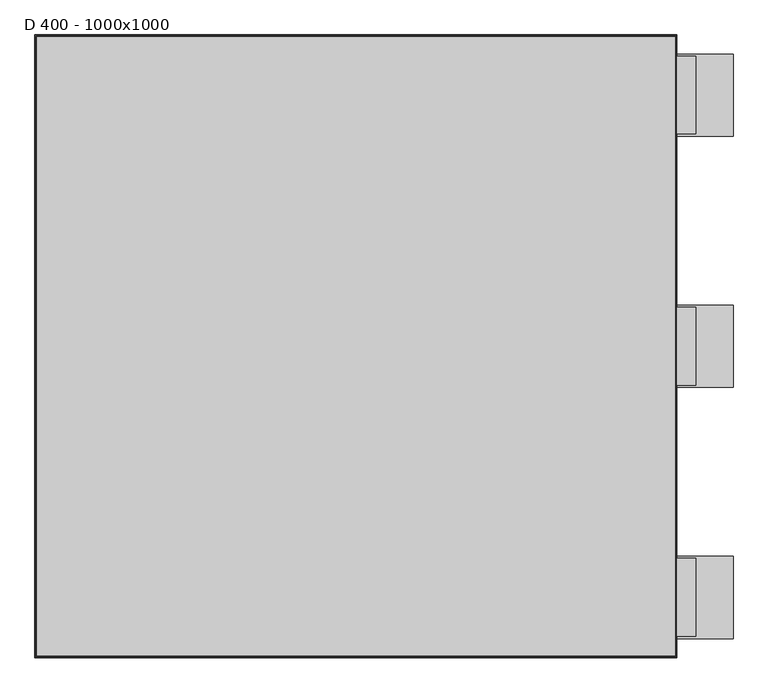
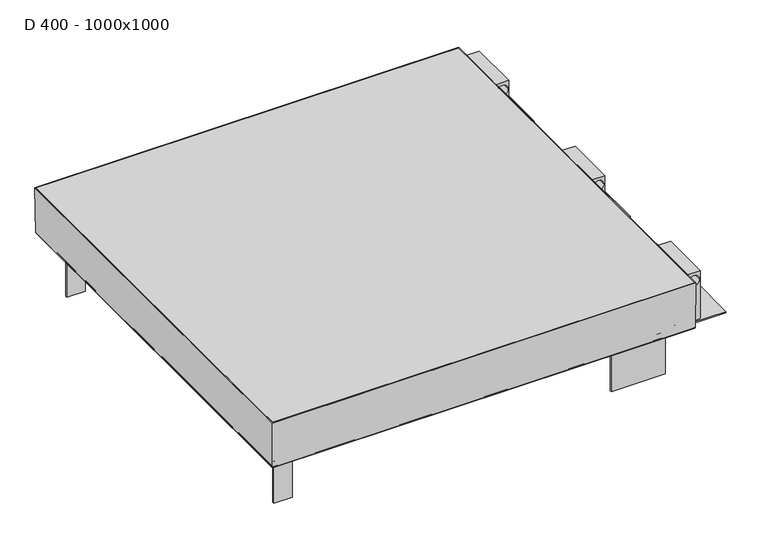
"""IFC4 building model written with IfcOpenShell, lengths in millimetres: proxy geometry, ME_ST_WPB_Access Cover PAVING ASSIST GS 120_ACO : D 400 - 1000x1000."""

from ifc_helpers import new_model, si_unit, point, frame, frame_2d, origin, place, context, project, spatial, polyline, circle_curve, ellipse_curve, trimmed, segment, composite_curve, outline, extrude, source, transform, mapped, element, save
from ifc_brep_helpers import plane_surface, cylinder_surface, revolved_surface, advanced_brep


def d_400_1000x1000_37fa2a3f(model_context):
    return source(origin(), model_context, "Body", "SolidModel", [
        extrude(outline(polyline([(540.0, 75.0), (690.0, 75.0), (690.0, -75.2111329), (540.0, -75.2111329), (540.0, 75.0)])), frame((0.0, 0.0, -144.0), z_axis=(0.0, 0.0, 1.0), x_axis=(1.0, 0.0, 0.0)), (0.0, 0.0, 1.0), 3.0),
        extrude(outline(polyline([(0.0, 622.0), (0.0, 587.0), (-141.0, 587.0), (-141.0, 622.0), (0.0, 622.0)]), holes=[composite_curve([segment(trimmed(circle_curve(frame_2d((-23.8203371, 604.4245301)), 15.0), [point((-23.8203371, 589.4245301))], [point((-23.8203371, 619.4245301))], True, "CARTESIAN"), True, "CONTINUOUS"), segment(trimmed(circle_curve(frame_2d((-23.8203371, 604.4245301)), 15.0), [point((-23.8203371, 619.4245301))], [point((-23.8203371, 589.4245301))], True, "CARTESIAN"), True, "CONTINUOUS")], self_intersect=False)]), frame((0.0, -70.8630535, 0.0), z_axis=(0.0, 1.0, 0.0), x_axis=(0.0, 0.0, 1.0)), (0.0, 0.0, 1.0), 142.0),
        extrude(outline(polyline([(540.0, -384.2888671), (690.0, -384.2888671), (690.0, -534.5), (540.0, -534.5), (540.0, -384.2888671)])), frame((0.0, 0.0, -144.0), z_axis=(0.0, 0.0, 1.0), x_axis=(1.0, 0.0, 0.0)), (0.0, 0.0, 1.0), 3.0),
        extrude(outline(polyline([(0.0, 622.0), (0.0, 587.0), (-141.0, 587.0), (-141.0, 622.0), (0.0, 622.0)]), holes=[composite_curve([segment(trimmed(circle_curve(frame_2d((-23.8203371, 604.4245301)), 15.0), [point((-23.8203371, 589.4245301))], [point((-23.8203371, 619.4245301))], True, "CARTESIAN"), True, "CONTINUOUS"), segment(trimmed(circle_curve(frame_2d((-23.8203371, 604.4245301)), 15.0), [point((-23.8203371, 619.4245301))], [point((-23.8203371, 589.4245301))], True, "CARTESIAN"), True, "CONTINUOUS")], self_intersect=False)]), frame((0.0, -530.1519206, 0.0), z_axis=(0.0, 1.0, 0.0), x_axis=(0.0, 0.0, 1.0)), (0.0, 0.0, 1.0), 142.0),
        extrude(outline(polyline([(540.0, 534.5), (690.0, 534.5), (690.0, 384.2888671), (540.0, 384.2888671), (540.0, 534.5)])), frame((0.0, 0.0, -144.0), z_axis=(0.0, 0.0, 1.0), x_axis=(1.0, 0.0, 0.0)), (0.0, 0.0, 1.0), 3.0),
        extrude(outline(polyline([(0.0, 622.0), (0.0, 587.0), (-141.0, 587.0), (-141.0, 622.0), (0.0, 622.0)]), holes=[composite_curve([segment(trimmed(circle_curve(frame_2d((-23.8203371, 604.4245301)), 15.0), [point((-23.8203371, 589.4245301))], [point((-23.8203371, 619.4245301))], True, "CARTESIAN"), True, "CONTINUOUS"), segment(trimmed(circle_curve(frame_2d((-23.8203371, 604.4245301)), 15.0), [point((-23.8203371, 619.4245301))], [point((-23.8203371, 589.4245301))], True, "CARTESIAN"), True, "CONTINUOUS")], self_intersect=False)]), frame((0.0, 388.6369465, 0.0), z_axis=(0.0, 1.0, 0.0), x_axis=(0.0, 0.0, 1.0)), (0.0, 0.0, 1.0), 142.0),
        extrude(outline(polyline([(-584.3953955, -511.8953955), (-584.3953955, 511.8953955), (-584.3953955, 566.8953955), (-529.3953955, 566.8953955), (529.3953955, 566.8953955), (584.3953955, 566.8953955), (584.3953955, 511.8953955), (584.3953955, -511.8953955), (584.3953955, -566.8953955), (529.3953955, -566.8953955), (-529.3953955, -566.8953955), (-584.3953955, -566.8953955), (-584.3953955, -511.8953955)])), frame((0.0, 0.0, -5.0), z_axis=(0.0, 0.0, 1.0), x_axis=(1.0, 0.0, 0.0)), (0.0, 0.0, 1.0), 5.0),
        advanced_brep(
        [(-517.5, 500.0, -116.8748363), (-517.5, -500.0, -116.8748363), (517.5, -500.0, -116.8748363), (517.5, 500.0, -116.8748363), (580.9605243, 563.4605243, -120.0), (580.9605243, -563.4605243, -120.0), (-580.9605243, -563.4605243, -120.0), (-580.9605243, 563.4605243, -120.0), (-517.5, 500.0, -117.9987834), (-517.5, -500.0, -117.9987834), (517.5, -500.0, -117.9987834), (517.5, 500.0, -117.9987834), (582.2486912, 564.7486912, -118.7973005), (582.2486912, -564.7486912, -118.7973005), (580.3145448, 562.8145448, -116.8748363), (579.1900014, 561.6900014, -117.9987834), (579.1900014, -561.6900014, -117.9987834), (580.3145448, -562.8145448, -116.8748363), (584.3953955, -566.8953955, 0.0), (584.3953955, 566.8953955, 0.0), (586.3966675, 568.8966675, 0.0), (586.3966675, -568.8966675, 0.0), (-582.2486912, -564.7486912, -118.7973005), (-579.1900014, -561.6900014, -117.9987834), (-580.3145448, -562.8145448, -116.8748363), (-584.3953955, -566.8953955, 0.0), (-586.3966675, -568.8966675, 0.0), (-582.2486912, 564.7486912, -118.7973005), (-579.1900014, 561.6900014, -117.9987834), (-580.3145448, 562.8145448, -116.8748363), (-584.3953955, 566.8953955, 0.0), (-586.3966675, 568.8966675, 0.0)],
        [
            (0, 1),
            (1, 2),
            (2, 3),
            (3, 0),
            (4, 5),
            (5, 6),
            (6, 7),
            (7, 4),
            (0, 8),
            (8, 9),
            (9, 1),
            (9, 10),
            (10, 2),
            (10, 11),
            (11, 3),
            (11, 8),
            (4, 12, ellipse_curve(frame((580.9605243, 563.4605243, -118.7087963), z_axis=(0.7071067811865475, -0.7071067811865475, 0.0), x_axis=(0.7071067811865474, 0.7071067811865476, 0.0)), 1.8260378, 1.2912037)),
            (12, 13),
            (13, 5, ellipse_curve(frame((580.9605243, -563.4605243, -118.7087963), z_axis=(0.7071067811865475, 0.7071067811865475, 0.0), x_axis=(-0.7071067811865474, 0.7071067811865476, 0.0)), 1.8260378, 1.2912037)),
            (14, 15, ellipse_curve(frame((579.0254138, 561.5254138, -116.7095649), z_axis=(-0.7071067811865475, 0.7071067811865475, 0.0), x_axis=(-0.7071067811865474, -0.7071067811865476, 0.0)), 1.838028, 1.2996821)),
            (15, 16),
            (16, 17, ellipse_curve(frame((579.0254138, -561.5254138, -116.7095649), z_axis=(-0.7071067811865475, -0.7071067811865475, 0.0), x_axis=(0.7071067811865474, -0.7071067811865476, 0.0)), 1.838028, 1.2996821)),
            (17, 14),
            (17, 18),
            (18, 19),
            (19, 14),
            (12, 20),
            (20, 21),
            (21, 13),
            (13, 22),
            (22, 6, ellipse_curve(frame((-580.9605243, -563.4605243, -118.7087963), z_axis=(0.7071067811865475, -0.7071067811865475, 0.0), x_axis=(0.7071067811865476, 0.7071067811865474, 0.0)), 1.8260378, 1.2912037)),
            (16, 23),
            (23, 24, ellipse_curve(frame((-579.0254138, -561.5254138, -116.7095649), z_axis=(-0.7071067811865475, 0.7071067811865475, 0.0), x_axis=(-0.7071067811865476, -0.7071067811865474, 0.0)), 1.838028, 1.2996821)),
            (24, 17),
            (24, 25),
            (25, 18),
            (21, 26),
            (26, 22),
            (22, 27),
            (27, 7, ellipse_curve(frame((-580.9605243, 563.4605243, -118.7087963), z_axis=(-0.7071067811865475, -0.7071067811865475, 0.0), x_axis=(0.7071067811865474, -0.7071067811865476, 0.0)), 1.8260378, 1.2912037)),
            (23, 28),
            (28, 29, ellipse_curve(frame((-579.0254138, 561.5254138, -116.7095649), z_axis=(0.7071067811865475, 0.7071067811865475, 0.0), x_axis=(-0.7071067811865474, 0.7071067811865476, 0.0)), 1.838028, 1.2996821)),
            (29, 24),
            (29, 30),
            (30, 25),
            (26, 31),
            (31, 27),
            (27, 12),
            (15, 28),
            (14, 29),
            (19, 30),
            (20, 31),
        ],
        [
            plane_surface(frame((-517.5, -500.0, -116.8748363), z_axis=(0.0, 0.0, 1.0), x_axis=(0.0, -1.0, 0.0))),
            plane_surface(frame((-517.5, -500.0, -120.0), z_axis=(0.0, 0.0, -1.0), x_axis=(0.0, 1.0, 0.0))),
            plane_surface(frame((-517.5, 500.0, -116.8748363), z_axis=(-1.0, 0.0, 0.0), x_axis=(0.0, 0.0, -1.0))),
            plane_surface(frame((-517.5, -500.0, -116.8748363), z_axis=(0.0, -1.0, 0.0), x_axis=(0.0, 0.0, -1.0))),
            plane_surface(frame((517.5, -500.0, -116.8748363), z_axis=(1.0, 0.0, 0.0), x_axis=(0.0, 0.0, -1.0))),
            plane_surface(frame((517.5, 500.0, -116.8748363), z_axis=(0.0, 1.0, 0.0), x_axis=(0.0, 0.0, -1.0))),
            cylinder_surface(frame((580.9605243, 567.5, -118.7087963), z_axis=(0.0, 1.0, 0.0), x_axis=(1.0, 0.0, 0.0)), 1.2912037),
            revolved_surface(polyline([(580.3250959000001, -562.8250958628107, -116.7095649), (580.3250959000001, 562.8250958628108, -116.7095649)]), (579.0254138, 567.5, -116.7095649), (0.0, -1.0, 0.0)),
            plane_surface(frame((580.3145448, 562.8145448, -116.8748363), z_axis=(-0.9993909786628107, 0.0, 0.03489515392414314), x_axis=(0.0, -1.0, 0.0))),
            plane_surface(frame((586.3966675, 568.8966675, 0.0), z_axis=(0.9993909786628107, 0.0, -0.0348951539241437), x_axis=(0.0, -1.0, 0.0))),
            cylinder_surface(frame((585.0, -563.4605243, -118.7087963), z_axis=(1.0, 0.0, 0.0), x_axis=(0.0, -1.0, 0.0)), 1.2912037),
            revolved_surface(polyline([(-580.3250958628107, -562.8250959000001, -116.7095649), (580.3250958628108, -562.8250959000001, -116.7095649)]), (585.0, -561.5254138, -116.7095649), (-1.0, 0.0, 0.0)),
            plane_surface(frame((580.3145448, -562.8145448, -116.8748363), z_axis=(0.0, 0.9993909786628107, 0.03489515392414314), x_axis=(-1.0, 0.0, 0.0))),
            plane_surface(frame((586.3966675, -568.8966675, 0.0), z_axis=(0.0, -0.9993909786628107, -0.0348951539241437), x_axis=(-1.0, 0.0, 0.0))),
            cylinder_surface(frame((-580.9605243, -567.5, -118.7087963), z_axis=(0.0, -1.0, 0.0), x_axis=(-1.0, 0.0, 0.0)), 1.2912037),
            revolved_surface(polyline([(-580.3250959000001, 562.8250958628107, -116.7095649), (-580.3250959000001, -562.8250958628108, -116.7095649)]), (-579.0254138, -567.5, -116.7095649), (0.0, 1.0, 0.0)),
            plane_surface(frame((-580.3145448, -562.8145448, -116.8748363), z_axis=(0.9993909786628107, 0.0, 0.03489515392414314), x_axis=(0.0, 1.0, 0.0))),
            plane_surface(frame((-586.3966675, -568.8966675, 0.0), z_axis=(-0.9993909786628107, 0.0, -0.0348951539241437), x_axis=(0.0, 1.0, 0.0))),
            cylinder_surface(frame((-585.0, 563.4605243, -118.7087963), z_axis=(-1.0, 0.0, 0.0), x_axis=(0.0, 1.0, 0.0)), 1.2912037),
            plane_surface(frame((-549.6109139, 532.1109139, -117.9987834), z_axis=(0.0, 0.0, 1.0), x_axis=(1.0, 0.0, 0.0))),
            revolved_surface(polyline([(580.3250958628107, 562.8250959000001, -116.7095649), (-580.3250958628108, 562.8250959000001, -116.7095649)]), (-585.0, 561.5254138, -116.7095649), (1.0, 0.0, 0.0)),
            plane_surface(frame((-580.3145448, 562.8145448, -116.8748363), z_axis=(0.0, -0.9993909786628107, 0.03489515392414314), x_axis=(1.0, 0.0, 0.0))),
            plane_surface(frame((-584.3953955, 566.8953955, 0.0), z_axis=(0.0, 0.0, 1.0), x_axis=(1.0, 0.0, 0.0))),
            plane_surface(frame((-586.3966675, 568.8966675, 0.0), z_axis=(0.0, 0.9993909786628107, -0.0348951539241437), x_axis=(1.0, 0.0, 0.0))),
        ],
        [
            (0, [[1, 2, 3, 4]]),
            (1, [[5, 6, 7, 8]]),
            (2, [[-1, 9, 10, 11]]),
            (3, [[-2, -11, 12, 13]]),
            (4, [[-3, -13, 14, 15]]),
            (5, [[-4, -15, 16, -9]]),
            (6, [[17, 18, 19, -5]]),
            (7, [[20, 21, 22, 23]]),
            (8, [[-23, 24, 25, 26]]),
            (9, [[-18, 27, 28, 29]]),
            (10, [[-19, 30, 31, -6]]),
            (11, [[-22, 32, 33, 34]]),
            (12, [[-24, -34, 35, 36]]),
            (13, [[-29, 37, 38, -30]]),
            (14, [[-31, 39, 40, -7]]),
            (15, [[-33, 41, 42, 43]]),
            (16, [[-35, -43, 44, 45]]),
            (17, [[-38, 46, 47, -39]]),
            (18, [[-17, -8, -40, 48]]),
            (19, [[-21, 49, -41, -32], [-10, -16, -14, -12]]),
            (20, [[-20, 50, -42, -49]]),
            (21, [[-26, 51, -44, -50]]),
            (22, [[-28, 52, -46, -37], [-25, -36, -45, -51]]),
            (23, [[-27, -48, -47, -52]]),
        ],
    ),
        advanced_brep(
        [(584.0603915, 566.5603915, -133.0), (585.3917116, 567.8917116, -131.7973005), (585.3917116, -567.8917116, -131.7973005), (584.0603915, -566.5603915, -133.0), (551.491936, 533.991936, -133.5068236), (552.3495131, 534.8495131, -133.0), (552.3495131, -534.8495131, -133.0), (551.491936, -533.991936, -133.5068236), (541.5430631, 524.0430631, -143.4568727), (541.5430631, -524.0430631, -143.4568727), (540.5631773, 523.0631773, -144.0), (540.5631773, -523.0631773, -144.0), (519.0, 501.5, -142.0), (521.0, 503.5, -144.0), (521.0, -503.5, -144.0), (519.0, -501.5, -142.0), (519.0, 501.5, -131.0), (519.0, -501.5, -131.0), (521.0, 503.5, -131.0), (521.0, -503.5, -131.0), (521.0, -503.5, -140.1412819), (521.0, 503.5, -140.1412819), (522.5596496, 505.0596496, -142.0), (522.5596496, -505.0596496, -142.0), (540.6238392, 523.1238392, -141.5476755), (539.8710448, 522.3710448, -142.0), (539.8710448, -522.3710448, -142.0), (540.6238392, -523.1238392, -141.5476755), (550.7056833, 533.2056833, -131.4646396), (550.7056833, -533.2056833, -131.4646396), (551.6109139, 534.1109139, -130.9987834), (551.6109139, -534.1109139, -130.9987834), (583.414412, 565.914412, -129.9192491), (582.2898686, 564.7898686, -130.9987834), (582.2898686, -564.7898686, -130.9987834), (583.414412, -565.914412, -129.9192491), (584.9987388, 567.4987388, 0.0), (584.9987388, -567.4987388, 0.0), (586.9989406, 569.4989406, 0.0), (586.9989406, -569.4989406, 0.0), (-585.3917116, -567.8917116, -131.7973005), (-584.0603915, -566.5603915, -133.0), (-552.3495131, -534.8495131, -133.0), (-551.491936, -533.991936, -133.5068236), (-541.5430631, -524.0430631, -143.4568727), (-540.5631773, -523.0631773, -144.0), (-521.0, -503.5, -144.0), (-519.0, -501.5, -142.0), (-519.0, -501.5, -131.0), (-521.0, -503.5, -131.0), (-521.0, -503.5, -140.1412819), (-522.5596496, -505.0596496, -142.0), (-539.8710448, -522.3710448, -142.0), (-540.6238392, -523.1238392, -141.5476755), (-550.7056833, -533.2056833, -131.4646396), (-551.6109139, -534.1109139, -130.9987834), (-582.2898686, -564.7898686, -130.9987834), (-583.414412, -565.914412, -129.9192491), (-584.9987388, -567.4987388, 0.0), (-586.9989406, -569.4989406, 0.0), (-585.3917116, 567.8917116, -131.7973005), (-584.0603915, 566.5603915, -133.0), (-552.3495131, 534.8495131, -133.0), (-551.491936, 533.991936, -133.5068236), (-541.5430631, 524.0430631, -143.4568727), (-540.5631773, 523.0631773, -144.0), (-521.0, 503.5, -144.0), (-519.0, 501.5, -142.0), (-519.0, 501.5, -131.0), (-521.0, 503.5, -131.0), (-521.0, 503.5, -140.1412819), (-522.5596496, 505.0596496, -142.0), (-539.8710448, 522.3710448, -142.0), (-540.6238392, 523.1238392, -141.5476755), (-550.7056833, 533.2056833, -131.4646396), (-551.6109139, 534.1109139, -130.9987834), (-582.2898686, 564.7898686, -130.9987834), (-583.414412, 565.914412, -129.9192491), (-584.9987388, 567.4987388, 0.0), (-586.9989406, 569.4989406, 0.0)],
        [
            (0, 1, ellipse_curve(frame((584.0603915, 566.5603915, -131.6618023), z_axis=(0.7071067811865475, -0.7071067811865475, 0.0), x_axis=(0.7071067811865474, 0.7071067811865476, 0.0)), 1.8924973, 1.3381977)),
            (1, 2),
            (2, 3, ellipse_curve(frame((584.0603915, -566.5603915, -131.6618023), z_axis=(0.7071067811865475, 0.7071067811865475, 0.0), x_axis=(-0.7071067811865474, 0.7071067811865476, 0.0)), 1.8924973, 1.3381977)),
            (3, 0),
            (4, 5, ellipse_curve(frame((552.9062332, 535.4062332, -134.9209536), z_axis=(-0.7071067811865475, 0.7071067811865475, 0.0), x_axis=(-0.7071067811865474, -0.7071067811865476, 0.0)), 2.8284271, 2.0)),
            (5, 6),
            (6, 7, ellipse_curve(frame((552.9062332, -535.4062332, -134.9209536), z_axis=(-0.7071067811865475, -0.7071067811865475, 0.0), x_axis=(0.7071067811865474, -0.7071067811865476, 0.0)), 2.8284271, 2.0)),
            (7, 4),
            (8, 4),
            (7, 9),
            (9, 8),
            (10, 8, ellipse_curve(frame((539.0169048, 521.5169048, -140.0547885), z_axis=(0.7071067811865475, -0.7071067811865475, 0.0), x_axis=(0.7071067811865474, 0.7071067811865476, 0.0)), 5.9926042, 4.237411)),
            (9, 11, ellipse_curve(frame((539.0169048, -521.5169048, -140.0547885), z_axis=(0.7071067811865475, 0.7071067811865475, 0.0), x_axis=(-0.7071067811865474, 0.7071067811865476, 0.0)), 5.9926042, 4.237411)),
            (11, 10),
            (12, 13, ellipse_curve(frame((522.5491099, 505.0491099, -140.4508901), z_axis=(0.7071067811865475, -0.7071067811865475, 0.0), x_axis=(0.7071067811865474, 0.7071067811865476, 0.0)), 5.4764811, 3.872457)),
            (13, 14),
            (14, 15, ellipse_curve(frame((522.5491099, -505.0491099, -140.4508901), z_axis=(0.7071067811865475, 0.7071067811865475, 0.0), x_axis=(-0.7071067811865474, 0.7071067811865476, 0.0)), 5.4764811, 3.872457)),
            (15, 12),
            (16, 12),
            (15, 17),
            (17, 16),
            (18, 19),
            (19, 20),
            (20, 21),
            (21, 18),
            (22, 21, ellipse_curve(frame((522.9978512, 505.4978512, -140.0485955), z_axis=(-0.7071067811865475, 0.7071067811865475, 0.0), x_axis=(-0.7071067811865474, -0.7071067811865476, 0.0)), 2.8284271, 2.0)),
            (20, 23, ellipse_curve(frame((522.9978512, -505.4978512, -140.0485955), z_axis=(-0.7071067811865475, -0.7071067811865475, 0.0), x_axis=(0.7071067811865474, -0.7071067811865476, 0.0)), 2.8284271, 2.0)),
            (23, 22),
            (24, 25, ellipse_curve(frame((539.2425005, 521.7425005, -140.1013342), z_axis=(-0.7071067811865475, 0.7071067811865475, 0.0), x_axis=(-0.7071067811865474, -0.7071067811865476, 0.0)), 2.8284271, 2.0)),
            (25, 26),
            (26, 27, ellipse_curve(frame((539.2425005, -521.7425005, -140.1013342), z_axis=(-0.7071067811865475, -0.7071067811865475, 0.0), x_axis=(0.7071067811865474, -0.7071067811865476, 0.0)), 2.8284271, 2.0)),
            (27, 24),
            (28, 24),
            (27, 29),
            (29, 28),
            (30, 28, ellipse_curve(frame((551.9486156, 534.4486156, -132.7674195), z_axis=(0.7071067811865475, -0.7071067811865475, 0.0), x_axis=(0.7071067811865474, 0.7071067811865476, 0.0)), 2.5464155, 1.8005877)),
            (29, 31, ellipse_curve(frame((551.9486156, -534.4486156, -132.7674195), z_axis=(0.7071067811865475, 0.7071067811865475, 0.0), x_axis=(-0.7071067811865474, 0.7071067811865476, 0.0)), 2.5464155, 1.8005877)),
            (31, 30),
            (32, 33, ellipse_curve(frame((582.125281, 564.625281, -129.7018519), z_axis=(-0.7071067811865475, 0.7071067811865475, 0.0), x_axis=(-0.7071067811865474, -0.7071067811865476, 0.0)), 1.8488485, 1.3073333)),
            (33, 34),
            (34, 35, ellipse_curve(frame((582.125281, -564.625281, -129.7018519), z_axis=(-0.7071067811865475, -0.7071067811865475, 0.0), x_axis=(0.7071067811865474, -0.7071067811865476, 0.0)), 1.8488485, 1.3073333)),
            (35, 32),
            (36, 32),
            (35, 37),
            (37, 36),
            (1, 38),
            (38, 39),
            (39, 2),
            (2, 40),
            (40, 41, ellipse_curve(frame((-584.0603915, -566.5603915, -131.6618023), z_axis=(0.7071067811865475, -0.7071067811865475, 0.0), x_axis=(0.7071067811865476, 0.7071067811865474, 0.0)), 1.8924973, 1.3381977)),
            (41, 3),
            (6, 42),
            (42, 43, ellipse_curve(frame((-552.9062332, -535.4062332, -134.9209536), z_axis=(-0.7071067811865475, 0.7071067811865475, 0.0), x_axis=(-0.7071067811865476, -0.7071067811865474, 0.0)), 2.8284271, 2.0)),
            (43, 7),
            (43, 44),
            (44, 9),
            (44, 45, ellipse_curve(frame((-539.0169048, -521.5169048, -140.0547885), z_axis=(0.7071067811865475, -0.7071067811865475, 0.0), x_axis=(0.7071067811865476, 0.7071067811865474, 0.0)), 5.9926042, 4.237411)),
            (45, 11),
            (14, 46),
            (46, 47, ellipse_curve(frame((-522.5491099, -505.0491099, -140.4508901), z_axis=(0.7071067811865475, -0.7071067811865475, 0.0), x_axis=(0.7071067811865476, 0.7071067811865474, 0.0)), 5.4764811, 3.872457)),
            (47, 15),
            (47, 48),
            (48, 17),
            (19, 49),
            (49, 50),
            (50, 20),
            (50, 51, ellipse_curve(frame((-522.9978512, -505.4978512, -140.0485955), z_axis=(-0.7071067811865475, 0.7071067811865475, 0.0), x_axis=(-0.7071067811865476, -0.7071067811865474, 0.0)), 2.8284271, 2.0)),
            (51, 23),
            (26, 52),
            (52, 53, ellipse_curve(frame((-539.2425005, -521.7425005, -140.1013342), z_axis=(-0.7071067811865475, 0.7071067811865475, 0.0), x_axis=(-0.7071067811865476, -0.7071067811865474, 0.0)), 2.8284271, 2.0)),
            (53, 27),
            (53, 54),
            (54, 29),
            (54, 55, ellipse_curve(frame((-551.9486156, -534.4486156, -132.7674195), z_axis=(0.7071067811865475, -0.7071067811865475, 0.0), x_axis=(0.7071067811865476, 0.7071067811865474, 0.0)), 2.5464155, 1.8005877)),
            (55, 31),
            (34, 56),
            (56, 57, ellipse_curve(frame((-582.125281, -564.625281, -129.7018519), z_axis=(-0.7071067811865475, 0.7071067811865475, 0.0), x_axis=(-0.7071067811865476, -0.7071067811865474, 0.0)), 1.8488485, 1.3073333)),
            (57, 35),
            (57, 58),
            (58, 37),
            (39, 59),
            (59, 40),
            (40, 60),
            (60, 61, ellipse_curve(frame((-584.0603915, 566.5603915, -131.6618023), z_axis=(-0.7071067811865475, -0.7071067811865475, 0.0), x_axis=(0.7071067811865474, -0.7071067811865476, 0.0)), 1.8924973, 1.3381977)),
            (61, 41),
            (42, 62),
            (62, 63, ellipse_curve(frame((-552.9062332, 535.4062332, -134.9209536), z_axis=(0.7071067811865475, 0.7071067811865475, 0.0), x_axis=(-0.7071067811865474, 0.7071067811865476, 0.0)), 2.8284271, 2.0)),
            (63, 43),
            (63, 64),
            (64, 44),
            (64, 65, ellipse_curve(frame((-539.0169048, 521.5169048, -140.0547885), z_axis=(-0.7071067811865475, -0.7071067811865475, 0.0), x_axis=(0.7071067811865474, -0.7071067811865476, 0.0)), 5.9926042, 4.237411)),
            (65, 45),
            (46, 66),
            (66, 67, ellipse_curve(frame((-522.5491099, 505.0491099, -140.4508901), z_axis=(-0.7071067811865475, -0.7071067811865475, 0.0), x_axis=(0.7071067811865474, -0.7071067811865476, 0.0)), 5.4764811, 3.872457)),
            (67, 47),
            (67, 68),
            (68, 48),
            (49, 69),
            (69, 70),
            (70, 50),
            (70, 71, ellipse_curve(frame((-522.9978512, 505.4978512, -140.0485955), z_axis=(0.7071067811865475, 0.7071067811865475, 0.0), x_axis=(-0.7071067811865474, 0.7071067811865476, 0.0)), 2.8284271, 2.0)),
            (71, 51),
            (52, 72),
            (72, 73, ellipse_curve(frame((-539.2425005, 521.7425005, -140.1013342), z_axis=(0.7071067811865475, 0.7071067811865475, 0.0), x_axis=(-0.7071067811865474, 0.7071067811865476, 0.0)), 2.8284271, 2.0)),
            (73, 53),
            (73, 74),
            (74, 54),
            (74, 75, ellipse_curve(frame((-551.9486156, 534.4486156, -132.7674195), z_axis=(-0.7071067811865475, -0.7071067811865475, 0.0), x_axis=(0.7071067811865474, -0.7071067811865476, 0.0)), 2.5464155, 1.8005877)),
            (75, 55),
            (56, 76),
            (76, 77, ellipse_curve(frame((-582.125281, 564.625281, -129.7018519), z_axis=(0.7071067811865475, 0.7071067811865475, 0.0), x_axis=(-0.7071067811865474, 0.7071067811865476, 0.0)), 1.8488485, 1.3073333)),
            (77, 57),
            (77, 78),
            (78, 58),
            (59, 79),
            (79, 60),
            (60, 1),
            (0, 61),
            (5, 62),
            (4, 63),
            (8, 64),
            (10, 65),
            (13, 66),
            (12, 67),
            (16, 68),
            (18, 69),
            (21, 70),
            (22, 71),
            (25, 72),
            (24, 73),
            (28, 74),
            (30, 75),
            (33, 76),
            (32, 77),
            (36, 78),
            (38, 79),
        ],
        [
            cylinder_surface(frame((584.0603915, 569.5, -131.6618023), z_axis=(0.0, 1.0, 0.0), x_axis=(1.0, 0.0, 0.0)), 1.3381977),
            revolved_surface(polyline([(554.9062332, -537.4062331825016, -134.9209536), (554.9062332, 537.4062331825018, -134.9209536)]), (552.9062332, 569.5, -134.9209536), (0.0, -1.0, 0.0)),
            plane_surface(frame((551.491936, 533.991936, -133.5068236), z_axis=(0.7071485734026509, 0.0, -0.7070649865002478), x_axis=(0.0, -1.0, 0.0))),
            cylinder_surface(frame((539.0169048, 569.5, -140.0547885), z_axis=(0.0, 1.0, 0.0), x_axis=(1.0, 0.0, 0.0)), 4.237411),
            cylinder_surface(frame((522.5491099, 569.5, -140.4508901), z_axis=(0.0, 1.0, 0.0), x_axis=(1.0, 0.0, 0.0)), 3.872457),
            plane_surface(frame((519.0, 501.5, -142.0), z_axis=(-1.0, 0.0, 0.0), x_axis=(0.0, -1.0, 0.0))),
            plane_surface(frame((521.0, 503.5, -133.0), z_axis=(1.0, 0.0, 0.0), x_axis=(0.0, -1.0, 0.0))),
            revolved_surface(polyline([(524.9978512, -507.4978511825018, -140.0485955), (524.9978512, 507.4978511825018, -140.0485955)]), (522.9978512, 569.5, -140.0485955), (0.0, -1.0, 0.0)),
            revolved_surface(polyline([(541.2425005, -523.7425004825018, -140.1013342), (541.2425005, 523.7425004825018, -140.1013342)]), (539.2425005, 569.5, -140.1013342), (0.0, -1.0, 0.0)),
            plane_surface(frame((540.6238392, 523.1238392, -141.5476755), z_axis=(-0.7071485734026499, 0.0, 0.707064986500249), x_axis=(0.0, -1.0, 0.0))),
            cylinder_surface(frame((551.9486156, 569.5, -132.7674195), z_axis=(0.0, 1.0, 0.0), x_axis=(1.0, 0.0, 0.0)), 1.8005877),
            revolved_surface(polyline([(583.4326143, -565.9326143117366, -129.7018519), (583.4326143, 565.9326143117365, -129.7018519)]), (582.125281, 569.5, -129.7018519), (0.0, -1.0, 0.0)),
            plane_surface(frame((583.414412, 565.914412, -129.9192491), z_axis=(-0.9999256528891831, 0.0, 0.01219379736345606), x_axis=(0.0, -1.0, 0.0))),
            plane_surface(frame((586.9989406, 569.4989406, 0.0), z_axis=(0.999925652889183, 0.0, -0.012193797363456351), x_axis=(0.0, -1.0, 0.0))),
            cylinder_surface(frame((587.0, -566.5603915, -131.6618023), z_axis=(1.0, 0.0, 0.0), x_axis=(0.0, -1.0, 0.0)), 1.3381977),
            revolved_surface(polyline([(-554.9062331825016, -537.4062332, -134.9209536), (554.9062331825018, -537.4062332, -134.9209536)]), (587.0, -535.4062332, -134.9209536), (-1.0, 0.0, 0.0)),
            plane_surface(frame((551.491936, -533.991936, -133.5068236), z_axis=(0.0, -0.7071485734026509, -0.7070649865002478), x_axis=(-1.0, 0.0, 0.0))),
            cylinder_surface(frame((587.0, -521.5169048, -140.0547885), z_axis=(1.0, 0.0, 0.0), x_axis=(0.0, -1.0, 0.0)), 4.237411),
            cylinder_surface(frame((587.0, -505.0491099, -140.4508901), z_axis=(1.0, 0.0, 0.0), x_axis=(0.0, -1.0, 0.0)), 3.872457),
            plane_surface(frame((519.0, -501.5, -142.0), z_axis=(0.0, 1.0, 0.0), x_axis=(-1.0, 0.0, 0.0))),
            plane_surface(frame((521.0, -503.5, -133.0), z_axis=(0.0, -1.0, 0.0), x_axis=(-1.0, 0.0, 0.0))),
            revolved_surface(polyline([(-524.9978511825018, -507.4978512, -140.0485955), (524.9978511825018, -507.4978512, -140.0485955)]), (587.0, -505.4978512, -140.0485955), (-1.0, 0.0, 0.0)),
            revolved_surface(polyline([(-541.2425004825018, -523.7425005, -140.1013342), (541.2425004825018, -523.7425005, -140.1013342)]), (587.0, -521.7425005, -140.1013342), (-1.0, 0.0, 0.0)),
            plane_surface(frame((540.6238392, -523.1238392, -141.5476755), z_axis=(0.0, 0.7071485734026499, 0.707064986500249), x_axis=(-1.0, 0.0, 0.0))),
            cylinder_surface(frame((587.0, -534.4486156, -132.7674195), z_axis=(1.0, 0.0, 0.0), x_axis=(0.0, -1.0, 0.0)), 1.8005877),
            revolved_surface(polyline([(-583.4326143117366, -565.9326143, -129.7018519), (583.4326143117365, -565.9326143, -129.7018519)]), (587.0, -564.625281, -129.7018519), (-1.0, 0.0, 0.0)),
            plane_surface(frame((583.414412, -565.914412, -129.9192491), z_axis=(0.0, 0.9999256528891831, 0.01219379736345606), x_axis=(-1.0, 0.0, 0.0))),
            plane_surface(frame((586.9989406, -569.4989406, 0.0), z_axis=(0.0, -0.999925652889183, -0.012193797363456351), x_axis=(-1.0, 0.0, 0.0))),
            cylinder_surface(frame((-584.0603915, -569.5, -131.6618023), z_axis=(0.0, -1.0, 0.0), x_axis=(-1.0, 0.0, 0.0)), 1.3381977),
            revolved_surface(polyline([(-554.9062332, 537.4062331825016, -134.9209536), (-554.9062332, -537.4062331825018, -134.9209536)]), (-552.9062332, -569.5, -134.9209536), (0.0, 1.0, 0.0)),
            plane_surface(frame((-551.491936, -533.991936, -133.5068236), z_axis=(-0.7071485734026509, 0.0, -0.7070649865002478), x_axis=(0.0, 1.0, 0.0))),
            cylinder_surface(frame((-539.0169048, -569.5, -140.0547885), z_axis=(0.0, -1.0, 0.0), x_axis=(-1.0, 0.0, 0.0)), 4.237411),
            cylinder_surface(frame((-522.5491099, -569.5, -140.4508901), z_axis=(0.0, -1.0, 0.0), x_axis=(-1.0, 0.0, 0.0)), 3.872457),
            plane_surface(frame((-519.0, -501.5, -142.0), z_axis=(1.0, 0.0, 0.0), x_axis=(0.0, 1.0, 0.0))),
            plane_surface(frame((-521.0, -503.5, -133.0), z_axis=(-1.0, 0.0, 0.0), x_axis=(0.0, 1.0, 0.0))),
            revolved_surface(polyline([(-524.9978512, 507.4978511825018, -140.0485955), (-524.9978512, -507.4978511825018, -140.0485955)]), (-522.9978512, -569.5, -140.0485955), (0.0, 1.0, 0.0)),
            revolved_surface(polyline([(-541.2425005, 523.7425004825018, -140.1013342), (-541.2425005, -523.7425004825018, -140.1013342)]), (-539.2425005, -569.5, -140.1013342), (0.0, 1.0, 0.0)),
            plane_surface(frame((-540.6238392, -523.1238392, -141.5476755), z_axis=(0.7071485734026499, 0.0, 0.707064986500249), x_axis=(0.0, 1.0, 0.0))),
            cylinder_surface(frame((-551.9486156, -569.5, -132.7674195), z_axis=(0.0, -1.0, 0.0), x_axis=(-1.0, 0.0, 0.0)), 1.8005877),
            revolved_surface(polyline([(-583.4326143, 565.9326143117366, -129.7018519), (-583.4326143, -565.9326143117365, -129.7018519)]), (-582.125281, -569.5, -129.7018519), (0.0, 1.0, 0.0)),
            plane_surface(frame((-583.414412, -565.914412, -129.9192491), z_axis=(0.9999256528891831, 0.0, 0.01219379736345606), x_axis=(0.0, 1.0, 0.0))),
            plane_surface(frame((-586.9989406, -569.4989406, 0.0), z_axis=(-0.999925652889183, 0.0, -0.012193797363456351), x_axis=(0.0, 1.0, 0.0))),
            cylinder_surface(frame((-587.0, 566.5603915, -131.6618023), z_axis=(-1.0, 0.0, 0.0), x_axis=(0.0, 1.0, 0.0)), 1.3381977),
            plane_surface(frame((-584.0603915, 566.5603915, -133.0), z_axis=(0.0, 0.0, -1.0), x_axis=(1.0, 0.0, 0.0))),
            revolved_surface(polyline([(554.9062331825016, 537.4062332, -134.9209536), (-554.9062331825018, 537.4062332, -134.9209536)]), (-587.0, 535.4062332, -134.9209536), (1.0, 0.0, 0.0)),
            plane_surface(frame((-551.491936, 533.991936, -133.5068236), z_axis=(0.0, 0.7071485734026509, -0.7070649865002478), x_axis=(1.0, 0.0, 0.0))),
            cylinder_surface(frame((-587.0, 521.5169048, -140.0547885), z_axis=(-1.0, 0.0, 0.0), x_axis=(0.0, 1.0, 0.0)), 4.237411),
            plane_surface(frame((-540.5631773, 523.0631773, -144.0), z_axis=(0.0, 0.0, -1.0), x_axis=(1.0, 0.0, 0.0))),
            cylinder_surface(frame((-587.0, 505.0491099, -140.4508901), z_axis=(-1.0, 0.0, 0.0), x_axis=(0.0, 1.0, 0.0)), 3.872457),
            plane_surface(frame((-519.0, 501.5, -142.0), z_axis=(0.0, -1.0, 0.0), x_axis=(1.0, 0.0, 0.0))),
            plane_surface(frame((-519.0, 501.5, -131.0), z_axis=(0.0, 0.0, 1.0), x_axis=(1.0, 0.0, 0.0))),
            plane_surface(frame((-521.0, 503.5, -133.0), z_axis=(0.0, 1.0, 0.0), x_axis=(1.0, 0.0, 0.0))),
            revolved_surface(polyline([(524.9978511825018, 507.4978512, -140.0485955), (-524.9978511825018, 507.4978512, -140.0485955)]), (-587.0, 505.4978512, -140.0485955), (1.0, 0.0, 0.0)),
            plane_surface(frame((-522.5596496, 505.0596496, -142.0), z_axis=(0.0, 0.0, 1.0), x_axis=(1.0, 0.0, 0.0))),
            revolved_surface(polyline([(541.2425004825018, 523.7425005, -140.1013342), (-541.2425004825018, 523.7425005, -140.1013342)]), (-587.0, 521.7425005, -140.1013342), (1.0, 0.0, 0.0)),
            plane_surface(frame((-540.6238392, 523.1238392, -141.5476755), z_axis=(0.0, -0.7071485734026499, 0.707064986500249), x_axis=(1.0, 0.0, 0.0))),
            cylinder_surface(frame((-587.0, 534.4486156, -132.7674195), z_axis=(-1.0, 0.0, 0.0), x_axis=(0.0, 1.0, 0.0)), 1.8005877),
            plane_surface(frame((-551.6109139, 534.1109139, -130.9987834), z_axis=(0.0, 0.0, 1.0), x_axis=(1.0, 0.0, 0.0))),
            revolved_surface(polyline([(583.4326143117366, 565.9326143, -129.7018519), (-583.4326143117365, 565.9326143, -129.7018519)]), (-587.0, 564.625281, -129.7018519), (1.0, 0.0, 0.0)),
            plane_surface(frame((-583.414412, 565.914412, -129.9192491), z_axis=(0.0, -0.9999256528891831, 0.01219379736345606), x_axis=(1.0, 0.0, 0.0))),
            plane_surface(frame((-584.9987388, 567.4987388, 0.0), z_axis=(0.0, 0.0, 1.0), x_axis=(1.0, 0.0, 0.0))),
            plane_surface(frame((-586.9989406, 569.4989406, 0.0), z_axis=(0.0, 0.999925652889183, -0.012193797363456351), x_axis=(1.0, 0.0, 0.0))),
        ],
        [
            (0, [[1, 2, 3, 4]]),
            (1, [[5, 6, 7, 8]]),
            (2, [[9, -8, 10, 11]]),
            (3, [[12, -11, 13, 14]]),
            (4, [[15, 16, 17, 18]]),
            (5, [[19, -18, 20, 21]]),
            (6, [[22, 23, 24, 25]]),
            (7, [[26, -24, 27, 28]]),
            (8, [[29, 30, 31, 32]]),
            (9, [[33, -32, 34, 35]]),
            (10, [[36, -35, 37, 38]]),
            (11, [[39, 40, 41, 42]]),
            (12, [[43, -42, 44, 45]]),
            (13, [[46, 47, 48, -2]]),
            (14, [[-3, 49, 50, 51]]),
            (15, [[-7, 52, 53, 54]]),
            (16, [[-10, -54, 55, 56]]),
            (17, [[-13, -56, 57, 58]]),
            (18, [[-17, 59, 60, 61]]),
            (19, [[-20, -61, 62, 63]]),
            (20, [[-23, 64, 65, 66]]),
            (21, [[-27, -66, 67, 68]]),
            (22, [[-31, 69, 70, 71]]),
            (23, [[-34, -71, 72, 73]]),
            (24, [[-37, -73, 74, 75]]),
            (25, [[-41, 76, 77, 78]]),
            (26, [[-44, -78, 79, 80]]),
            (27, [[-48, 81, 82, -49]]),
            (28, [[-50, 83, 84, 85]]),
            (29, [[-53, 86, 87, 88]]),
            (30, [[-55, -88, 89, 90]]),
            (31, [[-57, -90, 91, 92]]),
            (32, [[-60, 93, 94, 95]]),
            (33, [[-62, -95, 96, 97]]),
            (34, [[-65, 98, 99, 100]]),
            (35, [[-67, -100, 101, 102]]),
            (36, [[-70, 103, 104, 105]]),
            (37, [[-72, -105, 106, 107]]),
            (38, [[-74, -107, 108, 109]]),
            (39, [[-77, 110, 111, 112]]),
            (40, [[-79, -112, 113, 114]]),
            (41, [[-82, 115, 116, -83]]),
            (42, [[-84, 117, -1, 118]]),
            (43, [[-51, -85, -118, -4], [119, -86, -52, -6]]),
            (44, [[-87, -119, -5, 120]]),
            (45, [[-89, -120, -9, 121]]),
            (46, [[-91, -121, -12, 122]]),
            (47, [[-58, -92, -122, -14], [123, -93, -59, -16]]),
            (48, [[-94, -123, -15, 124]]),
            (49, [[-96, -124, -19, 125]]),
            (50, [[126, -98, -64, -22], [-63, -97, -125, -21]]),
            (51, [[-99, -126, -25, 127]]),
            (52, [[-101, -127, -26, 128]]),
            (53, [[129, -103, -69, -30], [-68, -102, -128, -28]]),
            (54, [[-104, -129, -29, 130]]),
            (55, [[-106, -130, -33, 131]]),
            (56, [[-108, -131, -36, 132]]),
            (57, [[133, -110, -76, -40], [-75, -109, -132, -38]]),
            (58, [[-111, -133, -39, 134]]),
            (59, [[-113, -134, -43, 135]]),
            (60, [[136, -115, -81, -47], [-80, -114, -135, -45]]),
            (61, [[-116, -136, -46, -117]]),
        ],
    ),
        extrude(outline(polyline([(-491.0, -495.0), (-491.0, -500.0), (-542.0, -500.0), (-542.0, -495.0), (-491.0, -495.0)])), frame((0.0, 0.0, -292.0), z_axis=(0.0, 0.0, 1.0), x_axis=(1.0, 0.0, 0.0)), (0.0, 0.0, 1.0), 148.0),
        extrude(outline(polyline([(-491.0, 500.0), (-491.0, 495.0), (-542.0, 495.0), (-542.0, 500.0), (-491.0, 500.0)])), frame((0.0, 0.0, -292.0), z_axis=(0.0, 0.0, 1.0), x_axis=(1.0, 0.0, 0.0)), (0.0, 0.0, 1.0), 148.0),
        extrude(outline(polyline([(542.0, 495.0), (392.0, 495.0), (392.0, 500.0), (542.0, 500.0), (542.0, 495.0)])), frame((0.0, 0.0, -292.0), z_axis=(0.0, 0.0, 1.0), x_axis=(1.0, 0.0, 0.0)), (0.0, 0.0, 1.0), 148.0),
        extrude(outline(polyline([(542.0, -495.0), (542.0, -500.0), (392.0, -500.0), (392.0, -495.0), (542.0, -495.0)])), frame((0.0, 0.0, -292.0), z_axis=(0.0, 0.0, 1.0), x_axis=(1.0, 0.0, 0.0)), (0.0, 0.0, 1.0), 148.0),
    ])


if __name__ == "__main__":
    model = new_model("IFC4")
    model_context = context("Model", 3, world=origin())
    ifc_project = project(units=[si_unit("LENGTHUNIT", "METRE", prefix="MILLI")], contexts=[model_context])
    site = spatial("IfcSite", under=ifc_project)
    building = spatial("IfcBuilding", under=site)
    placement = place(None, origin())
    d_400_1000x1000_shape = d_400_1000x1000_37fa2a3f(model_context)
    element("IfcBuildingElementProxy", 1, Name="ME_ST_WPB_Access Cover PAVING ASSIST GS 120_ACO : D 400 - 1000x1000", ObjectType="ME_ST_WPB_Access Cover PAVING ASSIST GS 120_ACO : D 400 - 1000x1000", at=placement, inside=building, context=model_context, shape_type="MappedRepresentation", body=[
        mapped(d_400_1000x1000_shape, transform((0.0, 0.0, 0.0), x_axis=(1.0, 0.0, 0.0), y_axis=(0.0, 1.0, 0.0), z_axis=(0.0, 0.0, 1.0))),
    ])
    save(model, "model.ifc")
